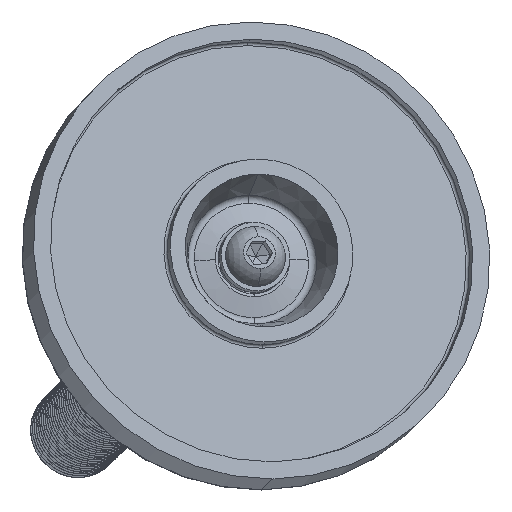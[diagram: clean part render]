
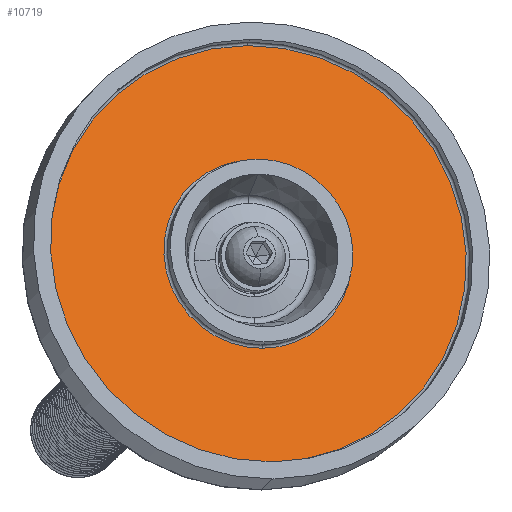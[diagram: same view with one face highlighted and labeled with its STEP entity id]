
A CAD part, front view. The second image highlights one B-rep face of the part: STEP entity #10719.
In plain terms, the highlighted planar face has unit normal (0.206, -0.958, 0.201) as drawn and (0, -1, 0) by its records, which use the part's own axes.
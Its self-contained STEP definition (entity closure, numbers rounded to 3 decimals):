
#2138 = CARTESIAN_POINT ( 'NONE',  ( 529.936, 380.917, 0. ) ) ;
#2141 = PLANE ( 'NONE',  #18867 ) ;
#2143 = DIRECTION ( 'NONE',  ( 0., -1., 0. ) ) ;
#2144 = DIRECTION ( 'NONE',  ( 0., 0., -1. ) ) ;
#5395 = EDGE_CURVE ( 'NONE', #24455, #24480, #21310, .T. ) ;
#5448 = EDGE_CURVE ( 'NONE', #24617, #24613, #21374, .T. ) ;
#5452 = EDGE_CURVE ( 'NONE', #24613, #24617, #21380, .T. ) ;
#5468 = EDGE_CURVE ( 'NONE', #24480, #24455, #21396, .T. ) ;
#9357 = CARTESIAN_POINT ( 'NONE',  ( 566.436, 380.917, -36.5 ) ) ;
#9382 = CARTESIAN_POINT ( 'NONE',  ( 566.436, 380.917, 36.5 ) ) ;
#9515 = CARTESIAN_POINT ( 'NONE',  ( 566.436, 380.917, 16.5 ) ) ;
#9519 = CARTESIAN_POINT ( 'NONE',  ( 566.436, 380.917, -16.5 ) ) ;
#10719 = ADVANCED_FACE ( 'NONE', ( #21698, #21691 ), #2141, .T. ) ;
#11283 = CARTESIAN_POINT ( 'NONE',  ( 566.436, 380.917, 0. ) ) ;
#11284 = DIRECTION ( 'NONE',  ( 0., 1., 0. ) ) ;
#11286 = DIRECTION ( 'NONE',  ( 0., 0., 1. ) ) ;
#14657 = ORIENTED_EDGE ( 'NONE', *, *, #5395, .F. ) ;
#14658 = ORIENTED_EDGE ( 'NONE', *, *, #5468, .F. ) ;
#14659 = ORIENTED_EDGE ( 'NONE', *, *, #5448, .T. ) ;
#14660 = ORIENTED_EDGE ( 'NONE', *, *, #5452, .T. ) ;
#17067 = EDGE_LOOP ( 'NONE', ( #14660, #14659 ) ) ;
#17070 = EDGE_LOOP ( 'NONE', ( #14658, #14657 ) ) ;
#18552 = AXIS2_PLACEMENT_3D ( 'NONE', #11283, #11284, #11286 ) ;
#18593 = AXIS2_PLACEMENT_3D ( 'NONE', #20155, #20156, #20157 ) ;
#18597 = AXIS2_PLACEMENT_3D ( 'NONE', #20167, #20168, #20169 ) ;
#18613 = AXIS2_PLACEMENT_3D ( 'NONE', #20218, #20219, #20220 ) ;
#18867 = AXIS2_PLACEMENT_3D ( 'NONE', #2138, #2143, #2144 ) ;
#20155 = CARTESIAN_POINT ( 'NONE',  ( 566.436, 380.917, 0. ) ) ;
#20156 = DIRECTION ( 'NONE',  ( 0., 1., 0. ) ) ;
#20157 = DIRECTION ( 'NONE',  ( 0., 0., 1. ) ) ;
#20167 = CARTESIAN_POINT ( 'NONE',  ( 566.436, 380.917, 0. ) ) ;
#20168 = DIRECTION ( 'NONE',  ( 0., 1., 0. ) ) ;
#20169 = DIRECTION ( 'NONE',  ( 0., 0., 1. ) ) ;
#20218 = CARTESIAN_POINT ( 'NONE',  ( 566.436, 380.917, 0. ) ) ;
#20219 = DIRECTION ( 'NONE',  ( 0., 1., 0. ) ) ;
#20220 = DIRECTION ( 'NONE',  ( 0., 0., 1. ) ) ;
#21310 = CIRCLE ( 'NONE', #18552, 36.5 ) ;
#21374 = CIRCLE ( 'NONE', #18593, 16.5 ) ;
#21380 = CIRCLE ( 'NONE', #18597, 16.5 ) ;
#21396 = CIRCLE ( 'NONE', #18613, 36.5 ) ;
#21691 = FACE_OUTER_BOUND ( 'NONE', #17070, .T. ) ;
#21698 = FACE_BOUND ( 'NONE', #17067, .T. ) ;
#24455 = VERTEX_POINT ( 'NONE', #9357 ) ;
#24480 = VERTEX_POINT ( 'NONE', #9382 ) ;
#24613 = VERTEX_POINT ( 'NONE', #9515 ) ;
#24617 = VERTEX_POINT ( 'NONE', #9519 ) ;
